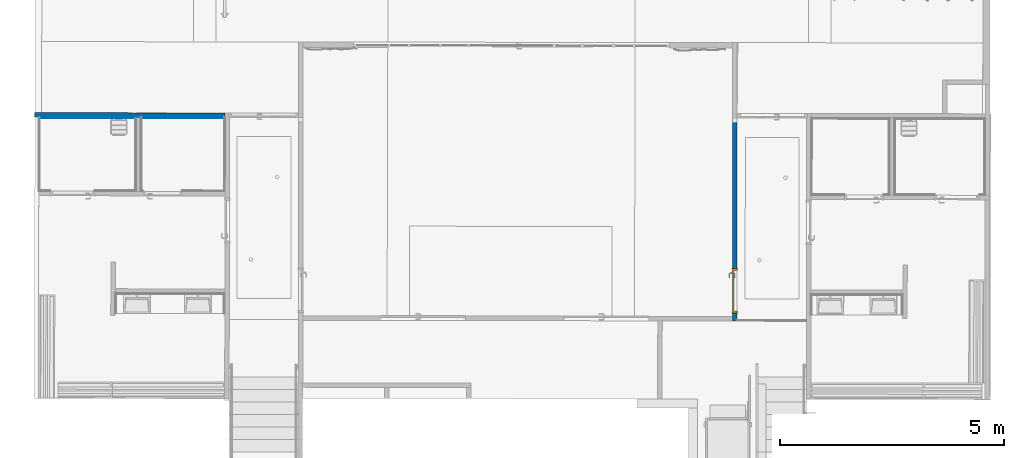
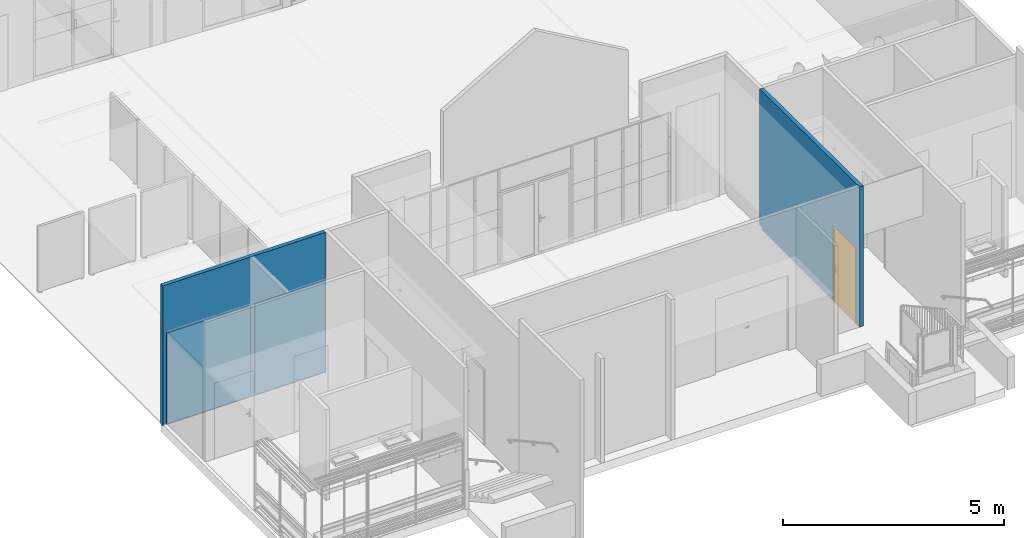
# One storey, part 12 of 43: 4 walls, 1 door, 1 opening.
"""IFC2X3 building model written with IfcOpenShell, lengths in metres."""

from ifc_helpers import new_model, entity, si_unit, converted_unit, derived_unit, direction, frame, frame_2d, origin, place, context, subcontext, project, spatial, polyline, rectangle, outline, extrude, clip, bounded_halfspace, faceted_brep, source, transform, mapped, material, material_list, layer, layer_set, layer_usage, type_object, type_shapes, element, fill, save


model = new_model("IFC2X3")

# Units and contexts
model_context = context("Model", 3, precision=1e-05, world=origin(), true_north=direction((6.123233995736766e-17, 1.0)))
body_context = subcontext(model_context, "Body", "Model", "MODEL_VIEW")
ifc_project = project(units=[si_unit("LENGTHUNIT", "METRE"), si_unit("AREAUNIT", "SQUARE_METRE"), converted_unit("PLANEANGLEUNIT", "DEGREE", entity("IfcPlaneAngleMeasure", 0.017453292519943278), si_unit("PLANEANGLEUNIT", "RADIAN"), dimensions=[0, 0, 0, 0, 0, 0, 0]), derived_unit("THERMALTRANSMITTANCEUNIT", [(si_unit("MASSUNIT", "GRAM", prefix="KILO"), 1), (si_unit("THERMODYNAMICTEMPERATUREUNIT", "KELVIN"), -1), (si_unit("TIMEUNIT", "SECOND"), -3)])], contexts=[model_context])

# Site, building, storey
site_placement = place(None, frame((1253.6752467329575, 2072.143113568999, 91.49999999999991), z_axis=(0.0, 0.0, 1.0), x_axis=(0.7237211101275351, 0.6900925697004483, 0.0)))
site = spatial("IfcSite", under=ifc_project, at=site_placement, Name="Surface", CompositionType="ELEMENT")
building_placement = place(site_placement, origin())
building = spatial("IfcBuilding", under=site, at=building_placement, CompositionType="ELEMENT")
storey_placement = place(building_placement, frame((0.0, 0.0, -4.629999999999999)))
storey = spatial("IfcBuildingStorey", under=building, at=storey_placement, Name="rez de rue -1.10m", CompositionType="ELEMENT", Elevation=-4.629999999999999)

# Wall
ifc_material_1 = material(Name="OMD_Cloison 100mm CF1h")
ifc_layer_1 = layer(ifc_material_1, 0.1)
ifc_layer_set_1 = layer_set([ifc_layer_1], Name="Mur de base:Cloison 100mm CF1h")
ifc_layer_usage_1 = layer_usage(ifc_layer_set_1, "AXIS2", "POSITIVE", -0.05)
wall_type_1 = type_object("IfcWallType", Name="Mur de base:Cloison 100mm CF1h", PredefinedType="STANDARD", material=ifc_layer_set_1)
wall_1_placement = place(storey_placement, frame((167.4283492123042, 2.730072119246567, -0.03999999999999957), z_axis=(0.0, 0.0, 1.0), x_axis=(-0.7228702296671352, 0.6909838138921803, 0.0)))
element("IfcWallStandardCase", 1, at=wall_1_placement, inside=storey, type_object=wall_type_1, material=ifc_layer_usage_1, Name="Mur de base:Cloison 100mm CF1h", ObjectType="Mur de base:Cloison 100mm CF1h", context=body_context, shape_type="Clipping", body=[
    clip(clip(extrude(outline(polyline([(4.246139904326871, -0.04999999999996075), (4.246139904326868, 0.050000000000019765), (4.14813990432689, 0.05000000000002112), (2.361177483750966e-05, 0.05000000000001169), (0.0, -0.04999999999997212), (4.246139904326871, -0.04999999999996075)])), origin(), (0.0, 0.0, 1.0), 3.861637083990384), bounded_halfspace(frame((0.0, -0.04999999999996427, 3.8607447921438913), z_axis=(-2.101698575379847e-06, -0.008901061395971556, 0.9999603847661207), x_axis=(0.9999999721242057, -0.00023611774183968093, 0.0)), False, frame((0.0, -0.04999999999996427, 3.8607447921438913)), polyline([(0.0, 0.0), (1.023847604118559, 0.0), (1.0231526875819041, 0.09999999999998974), (2.3611774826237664e-05, 0.09999999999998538), (0.0, 0.0)]))), bounded_halfspace(frame((1.0238476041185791, -0.04999999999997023, 3.86074694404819), z_axis=(0.00012580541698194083, -0.008900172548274, 0.9999603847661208), x_axis=(0.99990011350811, 0.014133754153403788, 0.0)), False, frame((1.0238476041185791, -0.04999999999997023, 3.86074694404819)), polyline([(0.0, 0.0), (3.222292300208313, 0.0), (3.2222923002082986, 0.10000000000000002), (-0.0006949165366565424, 0.09999999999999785), (0.0, 0.0)]))),
])

# Wall, opening, door
wall_2_placement = place(storey_placement, frame((175.6029724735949, -5.152289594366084, 0.0), z_axis=(0.0, 0.0, 1.0), x_axis=(-0.6909838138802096, -0.7228702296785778, 0.0)))
wall_2 = element("IfcWall", 2, at=wall_2_placement, inside=storey, type_object=wall_type_1, Name="Mur de base:Cloison 100mm CF1h", ObjectType="Mur de base:Cloison 100mm CF1h", context=body_context, shape_type="Brep", body=[
    faceted_brep([(4.5217681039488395, -0.0500000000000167, 3.861855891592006), (4.421768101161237, -0.05000000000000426, 3.8609657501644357), (0.0, -0.0500000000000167, 3.821605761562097), (0.0, -0.050000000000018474, 0.08000000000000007), (0.09999999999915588, -0.050000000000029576, 0.08000000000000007), (0.09999999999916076, -0.05000000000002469, 0.0), (3.349485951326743, -0.050000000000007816, 0.0), (3.3494859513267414, -0.05000000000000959, 2.0749999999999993), (4.349485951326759, -0.05000000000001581, 2.0749999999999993), (4.3494859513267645, -0.05000000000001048, 0.0), (4.421768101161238, -0.050000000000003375, 0.0), (4.521768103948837, -0.05000000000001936, 0.0), (0.0, 0.04999999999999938, 3.821605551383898), (4.501791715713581, 0.049999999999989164, 3.86167786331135), (4.521791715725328, 0.049999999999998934, 3.861855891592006), (4.5217917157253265, 0.04999999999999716, 2.4999999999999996), (4.521791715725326, 0.04999999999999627, 0.0), (4.349485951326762, 0.05000000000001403, 0.0), (4.349485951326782, 0.04999999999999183, 2.0749999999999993), (3.34948595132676, 0.050000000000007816, 2.0749999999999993), (3.3494859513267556, 0.05000000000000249, 0.0), (0.10000000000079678, 0.05000000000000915, 0.0), (0.10000000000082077, 0.049999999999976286, 0.08000000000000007), (0.0, 0.04999999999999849, 0.08000000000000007)], [[[0, 1, 2, 3, 4, 5, 6, 7, 8, 9, 10, 11]], [[12, 13, 14, 15, 16, 17, 18, 19, 20, 21, 22, 23]], [[5, 21, 20, 6]], [[2, 1, 0, 14, 13, 12]], [[0, 11, 16, 15, 14]], [[2, 12, 23, 3]], [[3, 23, 22, 4]], [[5, 4, 22, 21]], [[8, 18, 17, 9]], [[18, 8, 7, 19]], [[19, 7, 6, 20]], [[16, 11, 10, 9, 17]]]),
])
opening_placement = place(wall_2_placement, frame((4.3494859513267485, 0.05000000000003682, 0.0)))
opening = element("IfcOpeningElement", 3, at=opening_placement, cuts=wall_2, Name="Grz_porte 1V recouvrement 30°:93x204:1", ObjectType="Opening", context=body_context, shape_type="SweptSolid", body=[
    extrude(rectangle(XDim=2.0749999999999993, YDim=0.999999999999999, at=frame_2d((1.0374999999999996, 0.4999999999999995), x_axis=(1.0, 0.0))), frame((0.0, 0.0, 0.0), z_axis=(0.0, -1.0, 0.0), x_axis=(0.0, 0.0, 1.0)), (0.0, 0.0, 1.0), 0.1),
])
ifc_material_2 = material(Name="Porte - Poignée")
ifc_material_3 = material(Name="OMD_RAL1032")
ifc_material_list = material_list([ifc_material_2, ifc_material_3])
door_style = type_object("IfcDoorStyle", Name="Grz_porte 1V recouvrement 30°:93x204", ConstructionType="NOTDEFINED", OperationType="SINGLE_SWING_RIGHT", ParameterTakesPrecedence=False, Sizeable=False, material=ifc_material_list)
shared_shape = source(origin(), body_context, "Body", "Brep", [
    faceted_brep([(0.1029747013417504, 0.00999999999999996, 0.9922195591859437), (0.10702529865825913, 0.00999999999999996, 0.992219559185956), (0.11100000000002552, 0.00999999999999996, 0.9930000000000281), (0.11100000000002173, 0.00999999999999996, 1.0069999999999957), (0.10702529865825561, 0.00999999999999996, 1.007780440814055), (0.10297470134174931, 0.00999999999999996, 1.0077804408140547), (0.09899999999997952, 0.00999999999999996, 1.0069999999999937), (0.0989999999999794, 0.00999999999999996, 0.9929999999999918), (0.11100000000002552, 0.03248520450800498, 0.9930000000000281), (0.11100000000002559, 0.03248520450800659, 1.0069999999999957), (0.10702529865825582, 0.03413157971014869, 1.007780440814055), (0.12083890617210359, 0.04794518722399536, 1.0077804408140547), (0.1191610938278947, 0.0519957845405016, 1.0077804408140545), (0.10297470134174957, 0.03580939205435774, 1.0077804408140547), (0.21068474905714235, 0.04146731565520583, 1.0077804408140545), (0.21354895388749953, 0.04433152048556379, 1.0077804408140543), (0.20588468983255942, 0.051995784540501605, 1.0077804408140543), (0.20420687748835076, 0.04794518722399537, 1.0077804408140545), (0.09899999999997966, 0.0374557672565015, 1.0069999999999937), (0.09899999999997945, 0.03745576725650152, 0.9929999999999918), (0.10297470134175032, 0.03580939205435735, 0.9922195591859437), (0.11916109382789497, 0.051995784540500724, 0.9922195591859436), (0.12083890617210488, 0.047945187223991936, 0.9922195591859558), (0.10702529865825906, 0.034131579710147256, 0.992219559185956), (0.21354895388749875, 0.044331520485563, 0.9922195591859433), (0.21068474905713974, 0.04146731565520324, 0.9922195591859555), (0.2042068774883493, 0.04794518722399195, 0.9922195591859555), (0.205884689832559, 0.05199578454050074, 0.9922195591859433), (0.122485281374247, 0.04397048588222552, 0.993000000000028), (0.1224852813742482, 0.04397048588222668, 1.0069999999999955), (0.11751471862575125, 0.05597048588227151, 1.0069999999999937), (0.11751471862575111, 0.0559704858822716, 0.9929999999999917), (0.1625228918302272, 0.043970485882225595, 0.9930000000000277), (0.20256050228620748, 0.04397048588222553, 0.9930000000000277), (0.20256050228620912, 0.04397048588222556, 1.0069999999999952), (0.1625228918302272, 0.04397048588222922, 1.0069999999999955), (0.16252289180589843, 0.0501249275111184, 1.007878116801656), (0.20753106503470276, 0.05597048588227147, 1.0069999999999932), (0.16760057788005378, 0.05597048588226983, 1.006999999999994), (0.20753106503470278, 0.055970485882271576, 0.9929999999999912), (0.15744520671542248, 0.05597048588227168, 0.9929999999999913), (0.1625228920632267, 0.050124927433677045, 0.9921218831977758), (0.2078742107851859, 0.038656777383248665, 0.9930000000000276), (0.21635949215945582, 0.0471420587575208, 0.9929999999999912), (0.21635949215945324, 0.047142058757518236, 1.0069999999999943), (0.20787421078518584, 0.0386567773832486, 1.0069999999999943)], [[[0, 1, 2, 3, 4, 5, 6, 7]], [[3, 2, 8, 9]], [[9, 10, 4, 3]], [[10, 11, 12, 13, 5, 4]], [[14, 15, 16, 17]], [[13, 18, 6, 5]], [[7, 6, 18, 19]], [[19, 20, 0, 7]], [[20, 21, 22, 23, 1, 0]], [[24, 25, 26, 27]], [[23, 8, 2, 1]], [[9, 8, 28, 29]], [[29, 11, 10, 9]], [[12, 30, 18, 13]], [[19, 18, 30, 31]], [[31, 21, 20, 19]], [[22, 28, 8, 23]], [[29, 28, 32, 33, 34, 35]], [[11, 35, 36]], [[16, 37, 38]], [[30, 12, 38]], [[38, 12, 36]], [[36, 35, 17]], [[17, 16, 36]], [[35, 11, 29]], [[34, 17, 35]], [[11, 36, 12]], [[38, 36, 16]], [[31, 30, 38, 37, 39, 40]], [[40, 41, 21]], [[41, 40, 27]], [[21, 31, 40]], [[39, 27, 40]], [[41, 32, 22]], [[22, 21, 41]], [[26, 32, 41]], [[28, 22, 32]], [[32, 26, 33]], [[26, 41, 27]], [[42, 25, 24, 43, 44, 15, 14, 45]], [[34, 33, 42, 45]], [[45, 14, 17, 34]], [[15, 44, 37, 16]], [[39, 37, 44, 43]], [[43, 24, 27, 39]], [[25, 42, 33, 26]]]),
    faceted_brep([(0.1029747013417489, -0.030000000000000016, 1.0077804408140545), (0.10702529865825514, -0.030000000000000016, 1.007780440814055), (0.11100000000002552, -0.030000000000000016, 1.0069999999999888), (0.1110000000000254, -0.030000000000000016, 0.9930000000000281), (0.10702529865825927, -0.030000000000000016, 0.992219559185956), (0.10297470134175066, -0.030000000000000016, 0.9922195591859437), (0.09899999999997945, -0.030000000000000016, 0.9929999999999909), (0.09899999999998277, -0.030000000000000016, 1.0069999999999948), (0.09899999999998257, -0.057650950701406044, 1.0069999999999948), (0.1029747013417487, -0.05600457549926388, 1.0077804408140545), (0.11902358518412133, -0.07205345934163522, 1.0077804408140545), (0.12070139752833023, -0.06800286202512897, 1.0077804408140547), (0.10702529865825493, -0.05432676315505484, 1.007780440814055), (0.21352181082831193, -0.06438919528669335, 1.007780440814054), (0.21065760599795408, -0.061524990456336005, 1.0077804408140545), (0.20417973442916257, -0.06800286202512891, 1.0077804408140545), (0.20585754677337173, -0.07205345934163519, 1.007780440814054), (0.11100000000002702, -0.05268038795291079, 1.0069999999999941), (0.11100000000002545, -0.0526803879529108, 0.9930000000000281), (0.10702529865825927, -0.054326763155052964, 0.992219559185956), (0.12070139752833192, -0.06800286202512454, 0.9922195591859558), (0.11902358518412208, -0.07205345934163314, 0.9922195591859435), (0.10297470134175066, -0.05600457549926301, 0.9922195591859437), (0.2106576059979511, -0.06152499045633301, 0.9922195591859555), (0.21352181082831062, -0.06438919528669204, 0.9922195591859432), (0.2058575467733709, -0.07205345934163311, 0.9922195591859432), (0.20417973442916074, -0.06800286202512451, 0.9922195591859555), (0.09899999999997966, -0.057650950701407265, 0.9929999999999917), (0.11737720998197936, -0.0760281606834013, 1.0069999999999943), (0.12234777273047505, -0.06402816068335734, 1.0069999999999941), (0.12234777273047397, -0.0640281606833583, 0.993000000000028), (0.11737720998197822, -0.07602816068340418, 0.9929999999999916), (0.15730769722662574, -0.07602816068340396, 1.0069999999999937), (0.16244056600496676, -0.0701828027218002, 1.0078781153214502), (0.207503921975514, -0.07602816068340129, 1.0069999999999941), (0.16244056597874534, -0.06402816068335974, 1.0069999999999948), (0.20253335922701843, -0.06402816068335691, 1.0069999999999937), (0.20253335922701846, -0.06402816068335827, 0.9930000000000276), (0.1624405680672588, -0.06402816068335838, 0.9930000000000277), (0.1624405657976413, -0.07018280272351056, 0.9921218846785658), (0.20750392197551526, -0.07602816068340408, 0.9929999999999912), (0.1675734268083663, -0.07602816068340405, 0.9929999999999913), (0.20784706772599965, -0.05871445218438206, 1.0069999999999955), (0.21633234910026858, -0.06719973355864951, 1.0069999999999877), (0.2163323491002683, -0.06719973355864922, 0.9929999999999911), (0.20784706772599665, -0.05871445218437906, 0.993000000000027)], [[[0, 1, 2, 3, 4, 5, 6, 7]], [[8, 9, 0, 7]], [[9, 10, 11, 12, 1, 0]], [[13, 14, 15, 16]], [[12, 17, 2, 1]], [[3, 2, 17, 18]], [[18, 19, 4, 3]], [[19, 20, 21, 22, 5, 4]], [[23, 24, 25, 26]], [[22, 27, 6, 5]], [[7, 6, 27, 8]], [[28, 10, 9, 8]], [[11, 29, 17, 12]], [[18, 17, 29, 30]], [[30, 20, 19, 18]], [[21, 31, 27, 22]], [[8, 27, 31, 28]], [[32, 33, 10]], [[33, 32, 16]], [[10, 28, 32]], [[34, 16, 32]], [[33, 35, 11]], [[11, 10, 33]], [[15, 35, 33]], [[29, 11, 35]], [[35, 15, 36]], [[15, 33, 16]], [[29, 35, 36, 37, 38, 30]], [[20, 38, 39]], [[25, 40, 41]], [[31, 21, 41]], [[41, 21, 39]], [[39, 38, 26]], [[26, 25, 39]], [[38, 20, 30]], [[37, 26, 38]], [[20, 39, 21]], [[41, 39, 25]], [[28, 31, 41, 40, 34, 32]], [[42, 14, 13, 43, 44, 24, 23, 45]], [[43, 13, 16, 34]], [[14, 42, 36, 15]], [[37, 36, 42, 45]], [[45, 23, 26, 37]], [[24, 44, 40, 25]], [[34, 40, 44, 43]]]),
    faceted_brep([(0.11535276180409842, 0.004999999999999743, 0.8660039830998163), (0.12499999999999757, 0.004999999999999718, 0.8700000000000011), (0.12499999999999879, 0.004999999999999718, 1.0800000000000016), (0.11535276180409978, 0.004999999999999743, 1.0839960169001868), (0.10499999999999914, 0.004999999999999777, 1.085358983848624), (0.09464723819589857, 0.004999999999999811, 1.0839960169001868), (0.08499999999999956, 0.004999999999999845, 1.0800000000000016), (0.08499999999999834, 0.004999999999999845, 0.8700000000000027), (0.09464723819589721, 0.004999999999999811, 0.8660039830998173), (0.10499999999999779, 0.004999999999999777, 0.8646410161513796), (0.11535276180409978, 0.009999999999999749, 1.0839960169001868), (0.12499999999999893, 0.009999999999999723, 1.0800000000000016), (0.12499999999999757, 0.009999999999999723, 0.8700000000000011), (0.11535276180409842, 0.009999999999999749, 0.8660039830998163), (0.10499999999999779, 0.009999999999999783, 0.8646410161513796), (0.09464723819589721, 0.009999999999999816, 0.8660039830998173), (0.08499999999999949, 0.009999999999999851, 0.870000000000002), (0.08499999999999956, 0.009999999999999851, 1.0800000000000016), (0.09464723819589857, 0.009999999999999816, 1.0839960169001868), (0.10499999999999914, 0.009999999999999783, 1.085358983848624)], [[[0, 1, 2, 3, 4, 5, 6, 7, 8, 9]], [[10, 11, 12, 13, 14, 15, 16, 17, 18, 19]], [[11, 10, 3, 2]], [[3, 10, 19, 4]], [[19, 18, 5, 4]], [[18, 17, 6, 5]], [[7, 6, 17, 16]], [[16, 15, 8, 7]], [[8, 15, 14, 9]], [[14, 13, 0, 9]], [[13, 12, 1, 0]], [[2, 1, 12, 11]]]),
    faceted_brep([(0.1153527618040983, -0.030000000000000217, 0.8660039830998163), (0.1249999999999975, -0.030000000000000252, 0.8700000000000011), (0.12499999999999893, -0.030000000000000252, 1.0800000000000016), (0.11535276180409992, -0.030000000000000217, 1.0839960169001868), (0.10499999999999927, -0.030000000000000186, 1.085358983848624), (0.09464723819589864, -0.03000000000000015, 1.0839960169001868), (0.08499999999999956, -0.030000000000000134, 1.0800000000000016), (0.08499999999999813, -0.030000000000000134, 0.8700000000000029), (0.09464723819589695, -0.03000000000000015, 0.8660039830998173), (0.10499999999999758, -0.030000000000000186, 0.8646410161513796), (0.11535276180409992, -0.025000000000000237, 1.0839960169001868), (0.12499999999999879, -0.025000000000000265, 1.0800000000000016), (0.1249999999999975, -0.025000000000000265, 0.8700000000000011), (0.1153527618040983, -0.025000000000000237, 0.8660039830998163), (0.10499999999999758, -0.025000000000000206, 0.8646410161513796), (0.09464723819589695, -0.02500000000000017, 0.8660039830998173), (0.08499999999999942, -0.025000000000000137, 0.8700000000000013), (0.08499999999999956, -0.025000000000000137, 1.0800000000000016), (0.09464723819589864, -0.02500000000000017, 1.0839960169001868), (0.10499999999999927, -0.025000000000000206, 1.085358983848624)], [[[0, 1, 2, 3, 4, 5, 6, 7, 8, 9]], [[10, 11, 12, 13, 14, 15, 16, 17, 18, 19]], [[16, 15, 8, 7]], [[8, 15, 14, 9]], [[14, 13, 0, 9]], [[13, 12, 1, 0]], [[2, 1, 12, 11]], [[11, 10, 3, 2]], [[3, 10, 19, 4]], [[19, 18, 5, 4]], [[18, 17, 6, 5]], [[7, 6, 17, 16]]]),
    faceted_brep([(0.0, 0.0, 0.0), (0.0, 0.10000000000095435, 0.0), (-0.010000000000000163, 0.10000000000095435, 0.0), (-0.010000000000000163, 0.10800000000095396, 0.0), (0.04999999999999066, 0.10800000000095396, 0.0), (0.04999999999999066, 0.030000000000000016, 0.0), (0.03499999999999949, 0.030000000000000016, 0.0), (0.03499999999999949, -0.008000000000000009, 0.0), (-0.010000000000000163, -0.008000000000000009, 0.0), (-0.010000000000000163, 0.0, 0.0), (0.0, 0.0, 2.0749999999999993), (0.0, 0.10000000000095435, 2.0749999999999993), (1.0, 0.10000000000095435, 2.0749999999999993), (1.0, 0.10000000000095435, 0.0), (1.0099999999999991, 0.10000000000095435, 0.0), (1.0099999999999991, 0.10000000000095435, 2.084999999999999), (-0.010000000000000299, 0.10000000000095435, 2.084999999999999), (-0.010000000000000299, 0.10800000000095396, 2.084999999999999), (1.0099999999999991, 0.10800000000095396, 2.084999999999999), (1.0099999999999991, 0.10800000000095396, 0.0), (0.9500000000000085, 0.10800000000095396, 0.0), (0.9500000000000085, 0.10800000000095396, 2.0250000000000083), (0.049999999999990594, 0.10800000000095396, 2.0250000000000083), (0.049999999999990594, 0.030000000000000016, 2.0250000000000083), (0.9500000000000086, 0.030000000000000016, 2.0250000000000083), (0.9500000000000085, 0.030000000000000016, 0.0), (0.9649999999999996, 0.030000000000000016, 0.0), (0.9649999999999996, 0.030000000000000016, 2.0399999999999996), (0.03499999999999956, 0.030000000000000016, 2.0399999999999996), (0.03499999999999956, -0.008000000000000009, 2.0399999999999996), (0.9649999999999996, -0.008000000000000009, 2.0399999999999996), (0.9649999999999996, -0.008000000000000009, 0.0), (1.0099999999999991, -0.008000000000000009, 0.0), (1.0099999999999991, -0.008000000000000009, 2.084999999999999), (-0.010000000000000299, -0.008000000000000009, 2.084999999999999), (-0.010000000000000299, 0.0, 2.084999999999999), (1.0099999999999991, 0.0, 2.084999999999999), (1.0099999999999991, 0.0, 0.0), (1.0, 0.0, 0.0), (1.0, 0.0, 2.0749999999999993)], [[[0, 1, 2, 3, 4, 5, 6, 7, 8, 9]], [[1, 0, 10, 11]], [[2, 1, 11, 12, 13, 14, 15, 16]], [[3, 2, 16, 17]], [[4, 3, 17, 18, 19, 20, 21, 22]], [[5, 4, 22, 23]], [[6, 5, 23, 24, 25, 26, 27, 28]], [[7, 6, 28, 29]], [[8, 7, 29, 30, 31, 32, 33, 34]], [[9, 8, 34, 35]], [[0, 9, 35, 36, 37, 38, 39, 10]], [[12, 39, 38, 13]], [[38, 37, 32, 31, 26, 25, 20, 19, 14, 13]], [[18, 15, 14, 19]], [[24, 21, 20, 25]], [[30, 27, 26, 31]], [[36, 33, 32, 37]], [[11, 10, 39, 12]], [[17, 16, 15, 18]], [[23, 22, 21, 24]], [[29, 28, 27, 30]], [[35, 34, 33, 36]]]),
    faceted_brep([(0.03499999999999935, 0.0, 2.0399999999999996), (0.03499999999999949, 0.0, 0.0), (0.9649999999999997, 0.0, 0.0), (0.9649999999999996, 0.0, 2.0399999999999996), (0.03499999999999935, 0.030000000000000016, 2.0399999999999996), (0.9649999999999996, 0.030000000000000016, 2.0399999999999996), (0.9649999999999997, 0.030000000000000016, 0.0), (0.03499999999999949, 0.030000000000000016, 0.0)], [[[0, 1, 2, 3]], [[4, 5, 6, 7]], [[1, 0, 4, 7]], [[2, 1, 7, 6]], [[3, 2, 6, 5]], [[0, 3, 5, 4]]]),
])
type_shapes(door_style, [shared_shape])
door_placement = place(opening_placement, frame((-1.0, -0.10000000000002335, 0.0)))
door = element("IfcDoor", 4, at=door_placement, inside=storey, type_object=door_style, material=ifc_material_list, Name="Grz_porte 1V recouvrement 30°:93x204", ObjectType="Grz_porte 1V recouvrement 30°:93x204", OverallHeight=2.0749999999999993, OverallWidth=0.999999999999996, context=body_context, shape_type="MappedRepresentation", body=[
    mapped(shared_shape, transform((0.0, 0.0, 0.0), scale=1.0)),
])
fill(opening, door)

# Walls
ifc_material_4 = material(Name="OMD faience douche 60*120")
ifc_layer_2 = layer(ifc_material_4, 0.02)
ifc_layer_set_2 = layer_set([ifc_layer_2], Name="Mur de base:faïence douches")
ifc_layer_usage_2 = layer_usage(ifc_layer_set_2, "AXIS2", "POSITIVE", -0.010000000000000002)
wall_type_2 = type_object("IfcWallType", Name="Mur de base:faïence douches", PredefinedType="STANDARD", material=ifc_layer_set_2)
wall_3_placement = place(storey_placement, frame((164.38816986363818, 5.552840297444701, 0.0), z_axis=(0.0, 0.0, 1.0), x_axis=(0.7227070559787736, -0.6911544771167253, 0.0)))
element("IfcWallStandardCase", 5, at=wall_3_placement, inside=storey, type_object=wall_type_2, material=ifc_layer_usage_2, Name="Mur de base:faïence douches", ObjectType="Mur de base:faïence douches", context=body_context, shape_type="SweptSolid", body=[
    extrude(outline(polyline([(2.171190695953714, -0.009999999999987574), (2.171190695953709, 0.009999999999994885), (0.0, 0.009999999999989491), (4.722354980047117e-06, -0.009999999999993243), (2.151190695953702, -0.009999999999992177), (2.171190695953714, -0.009999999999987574)])), origin(), (0.0, 0.0, 1.0), 2.499999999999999),
])
ifc_layer_usage_3 = layer_usage(ifc_layer_set_2, "AXIS2", "NEGATIVE", 0.010000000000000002)
wall_4_placement = place(storey_placement, frame((167.37283730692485, 2.7009801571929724, 0.0), z_axis=(0.0, 0.0, 1.0), x_axis=(-0.7227070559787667, 0.6911544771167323, 0.0)))
element("IfcWallStandardCase", 6, at=wall_4_placement, inside=storey, type_object=wall_type_2, material=ifc_layer_usage_3, Name="Mur de base:faïence douches", ObjectType="Mur de base:faïence douches", context=body_context, shape_type="SweptSolid", body=[
    extrude(rectangle(XDim=1.8369254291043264, YDim=0.019999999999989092, at=frame_2d((0.9184627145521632, -2.2152418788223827e-15), x_axis=(-1.0, 0.0))), origin(), (0.0, 0.0, 1.0), 2.499999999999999),
])

save(model, "model.ifc")
